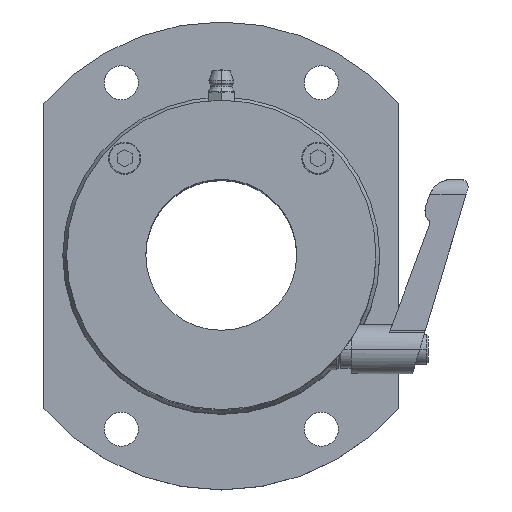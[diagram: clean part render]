
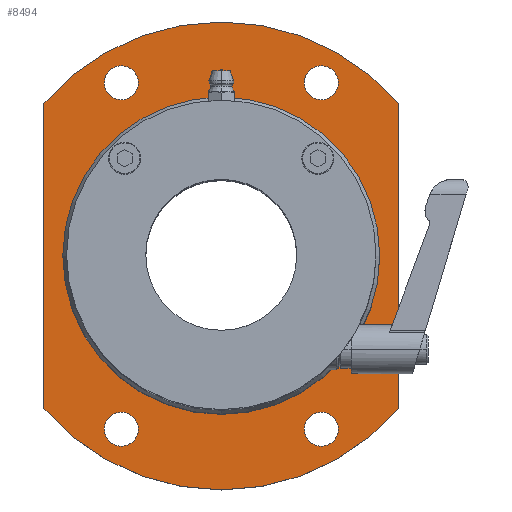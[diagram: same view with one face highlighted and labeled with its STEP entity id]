
A CAD part, top view. The second image highlights one B-rep face of the part: STEP entity #8494.
In plain terms, the highlighted planar face has unit normal (0, 0, 1).
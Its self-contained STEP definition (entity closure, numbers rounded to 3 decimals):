
#140 = CARTESIAN_POINT ( 'NONE',  ( 26.347, -45.62, 117. ) ) ;
#191 = DIRECTION ( 'NONE',  ( 0., 1., 0. ) ) ;
#225 = AXIS2_PLACEMENT_3D ( 'NONE', #3117, #8328, #7371 ) ;
#263 = AXIS2_PLACEMENT_3D ( 'NONE', #3926, #9744, #4535 ) ;
#299 = CIRCLE ( 'NONE', #10124, 42. ) ;
#427 = CARTESIAN_POINT ( 'NONE',  ( 21.847, -45.62, 117. ) ) ;
#491 = CARTESIAN_POINT ( 'NONE',  ( -4.653, 0.279, 117. ) ) ;
#494 = FACE_BOUND ( 'NONE', #5535, .T. ) ;
#985 = EDGE_CURVE ( 'NONE', #9310, #7622, #7758, .T. ) ;
#989 = CARTESIAN_POINT ( 'NONE',  ( -26.653, 46.179, 117. ) ) ;
#1059 = ORIENTED_EDGE ( 'NONE', *, *, #3557, .T. ) ;
#1176 = DIRECTION ( 'NONE',  ( 0., 1., 0. ) ) ;
#1199 = DIRECTION ( 'NONE',  ( 1., 0., 0. ) ) ;
#1329 = VECTOR ( 'NONE', #7847, 1000. ) ;
#1351 = EDGE_LOOP ( 'NONE', ( #4157, #10859 ) ) ;
#1362 = VERTEX_POINT ( 'NONE', #4668 ) ;
#1388 = AXIS2_PLACEMENT_3D ( 'NONE', #9124, #2219, #1436 ) ;
#1422 = ORIENTED_EDGE ( 'NONE', *, *, #6351, .T. ) ;
#1436 = DIRECTION ( 'NONE',  ( 1., 0., 0. ) ) ;
#1467 = DIRECTION ( 'NONE',  ( 0., 0., -1. ) ) ;
#1788 = CARTESIAN_POINT ( 'NONE',  ( -35.653, 46.179, 117. ) ) ;
#2191 = DIRECTION ( 'NONE',  ( 0., 0., -1. ) ) ;
#2219 = DIRECTION ( 'NONE',  ( 0., 0., -1. ) ) ;
#2261 = DIRECTION ( 'NONE',  ( 0., 0., -1. ) ) ;
#2355 = CIRCLE ( 'NONE', #9164, 4.5 ) ;
#2572 = ORIENTED_EDGE ( 'NONE', *, *, #4849, .T. ) ;
#2625 = VERTEX_POINT ( 'NONE', #3096 ) ;
#2854 = CARTESIAN_POINT ( 'NONE',  ( -4.653, 42.279, 117. ) ) ;
#2862 = EDGE_CURVE ( 'NONE', #1362, #8705, #2355, .T. ) ;
#2886 = CIRCLE ( 'NONE', #7363, 42. ) ;
#2919 = ORIENTED_EDGE ( 'NONE', *, *, #4088, .T. ) ;
#3074 = FACE_BOUND ( 'NONE', #4981, .T. ) ;
#3096 = CARTESIAN_POINT ( 'NONE',  ( -51.653, -40.156, 117. ) ) ;
#3097 = CARTESIAN_POINT ( 'NONE',  ( -4.653, 0.279, 117. ) ) ;
#3113 = DIRECTION ( 'NONE',  ( 0., 1., 0. ) ) ;
#3117 = CARTESIAN_POINT ( 'NONE',  ( 21.847, 46.179, 117. ) ) ;
#3220 = EDGE_CURVE ( 'NONE', #9875, #4829, #299, .T. ) ;
#3259 = EDGE_CURVE ( 'NONE', #7127, #8171, #8540, .T. ) ;
#3477 = CARTESIAN_POINT ( 'NONE',  ( -51.653, 40.714, 117. ) ) ;
#3557 = EDGE_CURVE ( 'NONE', #8171, #7127, #6032, .T. ) ;
#3602 = CARTESIAN_POINT ( 'NONE',  ( 26.347, 46.179, 117. ) ) ;
#3663 = VECTOR ( 'NONE', #191, 1000. ) ;
#3830 = DIRECTION ( 'NONE',  ( 0., 0., 1. ) ) ;
#3910 = CARTESIAN_POINT ( 'NONE',  ( -31.153, -45.62, 117. ) ) ;
#3926 = CARTESIAN_POINT ( 'NONE',  ( -4.653, 0.279, 117. ) ) ;
#4088 = EDGE_CURVE ( 'NONE', #6209, #9009, #4838, .T. ) ;
#4134 = DIRECTION ( 'NONE',  ( 0., 1., 0. ) ) ;
#4157 = ORIENTED_EDGE ( 'NONE', *, *, #10860, .T. ) ;
#4203 = AXIS2_PLACEMENT_3D ( 'NONE', #4758, #3830, #10626 ) ;
#4221 = ORIENTED_EDGE ( 'NONE', *, *, #10462, .T. ) ;
#4371 = DIRECTION ( 'NONE',  ( 1., 0., 0. ) ) ;
#4426 = CARTESIAN_POINT ( 'NONE',  ( 21.847, -45.62, 117. ) ) ;
#4535 = DIRECTION ( 'NONE',  ( 0., 1., 0. ) ) ;
#4654 = FACE_BOUND ( 'NONE', #7779, .T. ) ;
#4668 = CARTESIAN_POINT ( 'NONE',  ( -35.653, -45.62, 117. ) ) ;
#4748 = AXIS2_PLACEMENT_3D ( 'NONE', #9991, #8378, #4134 ) ;
#4758 = CARTESIAN_POINT ( 'NONE',  ( -4.653, 52.279, 117. ) ) ;
#4829 = VERTEX_POINT ( 'NONE', #2854 ) ;
#4838 = CIRCLE ( 'NONE', #6250, 4.5 ) ;
#4848 = CARTESIAN_POINT ( 'NONE',  ( 17.347, 46.179, 117. ) ) ;
#4849 = EDGE_CURVE ( 'NONE', #8701, #2625, #8699, .T. ) ;
#4981 = EDGE_LOOP ( 'NONE', ( #2919, #5598 ) ) ;
#5065 = CARTESIAN_POINT ( 'NONE',  ( 42.347, -40.156, 117. ) ) ;
#5300 = DIRECTION ( 'NONE',  ( 0., 0., -1. ) ) ;
#5535 = EDGE_LOOP ( 'NONE', ( #1059, #10680 ) ) ;
#5598 = ORIENTED_EDGE ( 'NONE', *, *, #7823, .T. ) ;
#5605 = DIRECTION ( 'NONE',  ( 1., 0., 0. ) ) ;
#5610 = CARTESIAN_POINT ( 'NONE',  ( 21.847, 46.179, 117. ) ) ;
#5776 = CIRCLE ( 'NONE', #7557, 62. ) ;
#5985 = ORIENTED_EDGE ( 'NONE', *, *, #10726, .T. ) ;
#6030 = VERTEX_POINT ( 'NONE', #4848 ) ;
#6032 = CIRCLE ( 'NONE', #7464, 4.5 ) ;
#6209 = VERTEX_POINT ( 'NONE', #140 ) ;
#6219 = ORIENTED_EDGE ( 'NONE', *, *, #985, .T. ) ;
#6250 = AXIS2_PLACEMENT_3D ( 'NONE', #427, #9950, #8158 ) ;
#6297 = AXIS2_PLACEMENT_3D ( 'NONE', #4426, #8632, #4371 ) ;
#6351 = EDGE_CURVE ( 'NONE', #4829, #9875, #2886, .T. ) ;
#6875 = CARTESIAN_POINT ( 'NONE',  ( -26.653, -45.62, 117. ) ) ;
#6899 = CARTESIAN_POINT ( 'NONE',  ( -4.653, 62.279, 117. ) ) ;
#6923 = CARTESIAN_POINT ( 'NONE',  ( -4.653, -41.721, 117. ) ) ;
#7021 = FACE_BOUND ( 'NONE', #1351, .T. ) ;
#7127 = VERTEX_POINT ( 'NONE', #1788 ) ;
#7139 = DIRECTION ( 'NONE',  ( 1., 0., 0. ) ) ;
#7363 = AXIS2_PLACEMENT_3D ( 'NONE', #3097, #2261, #9827 ) ;
#7371 = DIRECTION ( 'NONE',  ( 1., 0., 0. ) ) ;
#7382 = AXIS2_PLACEMENT_3D ( 'NONE', #3910, #8895, #7139 ) ;
#7464 = AXIS2_PLACEMENT_3D ( 'NONE', #9614, #5300, #1199 ) ;
#7557 = AXIS2_PLACEMENT_3D ( 'NONE', #491, #10675, #1176 ) ;
#7565 = EDGE_CURVE ( 'NONE', #9310, #2625, #5776, .T. ) ;
#7622 = VERTEX_POINT ( 'NONE', #9903 ) ;
#7730 = AXIS2_PLACEMENT_3D ( 'NONE', #5610, #1467, #8302 ) ;
#7758 = LINE ( 'NONE', #9494, #3663 ) ;
#7779 = EDGE_LOOP ( 'NONE', ( #1422, #9715 ) ) ;
#7788 = CIRCLE ( 'NONE', #263, 62. ) ;
#7823 = EDGE_CURVE ( 'NONE', #9009, #6209, #9541, .T. ) ;
#7847 = DIRECTION ( 'NONE',  ( 0., -1., 0. ) ) ;
#8158 = DIRECTION ( 'NONE',  ( 1., 0., 0. ) ) ;
#8171 = VERTEX_POINT ( 'NONE', #989 ) ;
#8302 = DIRECTION ( 'NONE',  ( 1., 0., 0. ) ) ;
#8328 = DIRECTION ( 'NONE',  ( 0., 0., -1. ) ) ;
#8378 = DIRECTION ( 'NONE',  ( 0., 0., -1. ) ) ;
#8494 = ADVANCED_FACE ( 'NONE', ( #9608, #3074, #494, #8921, #7021, #4654 ), #9809, .T. ) ;
#8540 = CIRCLE ( 'NONE', #1388, 4.5 ) ;
#8632 = DIRECTION ( 'NONE',  ( 0., 0., -1. ) ) ;
#8699 = LINE ( 'NONE', #8808, #1329 ) ;
#8701 = VERTEX_POINT ( 'NONE', #3477 ) ;
#8705 = VERTEX_POINT ( 'NONE', #6875 ) ;
#8731 = CARTESIAN_POINT ( 'NONE',  ( 17.347, -45.62, 117. ) ) ;
#8808 = CARTESIAN_POINT ( 'NONE',  ( -51.653, 40.714, 117. ) ) ;
#8815 = ORIENTED_EDGE ( 'NONE', *, *, #7565, .F. ) ;
#8895 = DIRECTION ( 'NONE',  ( 0., 0., -1. ) ) ;
#8912 = EDGE_CURVE ( 'NONE', #11069, #7622, #7788, .T. ) ;
#8921 = FACE_BOUND ( 'NONE', #9343, .T. ) ;
#9009 = VERTEX_POINT ( 'NONE', #8731 ) ;
#9075 = DIRECTION ( 'NONE',  ( 0., 0., -1. ) ) ;
#9124 = CARTESIAN_POINT ( 'NONE',  ( -31.153, 46.179, 117. ) ) ;
#9130 = ORIENTED_EDGE ( 'NONE', *, *, #9289, .F. ) ;
#9164 = AXIS2_PLACEMENT_3D ( 'NONE', #10806, #2191, #5605 ) ;
#9289 = EDGE_CURVE ( 'NONE', #8701, #11069, #9585, .T. ) ;
#9310 = VERTEX_POINT ( 'NONE', #5065 ) ;
#9343 = EDGE_LOOP ( 'NONE', ( #4221, #5985 ) ) ;
#9494 = CARTESIAN_POINT ( 'NONE',  ( 42.347, -40.156, 117. ) ) ;
#9533 = CIRCLE ( 'NONE', #7730, 4.5 ) ;
#9541 = CIRCLE ( 'NONE', #6297, 4.5 ) ;
#9585 = CIRCLE ( 'NONE', #4748, 62. ) ;
#9608 = FACE_OUTER_BOUND ( 'NONE', #10457, .T. ) ;
#9614 = CARTESIAN_POINT ( 'NONE',  ( -31.153, 46.179, 117. ) ) ;
#9712 = CIRCLE ( 'NONE', #7382, 4.5 ) ;
#9715 = ORIENTED_EDGE ( 'NONE', *, *, #3220, .T. ) ;
#9744 = DIRECTION ( 'NONE',  ( 0., 0., -1. ) ) ;
#9809 = PLANE ( 'NONE',  #4203 ) ;
#9827 = DIRECTION ( 'NONE',  ( 0., 1., 0. ) ) ;
#9875 = VERTEX_POINT ( 'NONE', #6923 ) ;
#9879 = CIRCLE ( 'NONE', #225, 4.5 ) ;
#9903 = CARTESIAN_POINT ( 'NONE',  ( 42.347, 40.714, 117. ) ) ;
#9950 = DIRECTION ( 'NONE',  ( 0., 0., -1. ) ) ;
#9991 = CARTESIAN_POINT ( 'NONE',  ( -4.653, 0.279, 117. ) ) ;
#10005 = ORIENTED_EDGE ( 'NONE', *, *, #8912, .F. ) ;
#10124 = AXIS2_PLACEMENT_3D ( 'NONE', #10828, #9075, #3113 ) ;
#10457 = EDGE_LOOP ( 'NONE', ( #6219, #10005, #9130, #2572, #8815 ) ) ;
#10462 = EDGE_CURVE ( 'NONE', #10897, #6030, #9533, .T. ) ;
#10626 = DIRECTION ( 'NONE',  ( 1., 0., 0. ) ) ;
#10675 = DIRECTION ( 'NONE',  ( 0., 0., -1. ) ) ;
#10680 = ORIENTED_EDGE ( 'NONE', *, *, #3259, .T. ) ;
#10726 = EDGE_CURVE ( 'NONE', #6030, #10897, #9879, .T. ) ;
#10806 = CARTESIAN_POINT ( 'NONE',  ( -31.153, -45.62, 117. ) ) ;
#10828 = CARTESIAN_POINT ( 'NONE',  ( -4.653, 0.279, 117. ) ) ;
#10859 = ORIENTED_EDGE ( 'NONE', *, *, #2862, .T. ) ;
#10860 = EDGE_CURVE ( 'NONE', #8705, #1362, #9712, .T. ) ;
#10897 = VERTEX_POINT ( 'NONE', #3602 ) ;
#11069 = VERTEX_POINT ( 'NONE', #6899 ) ;
